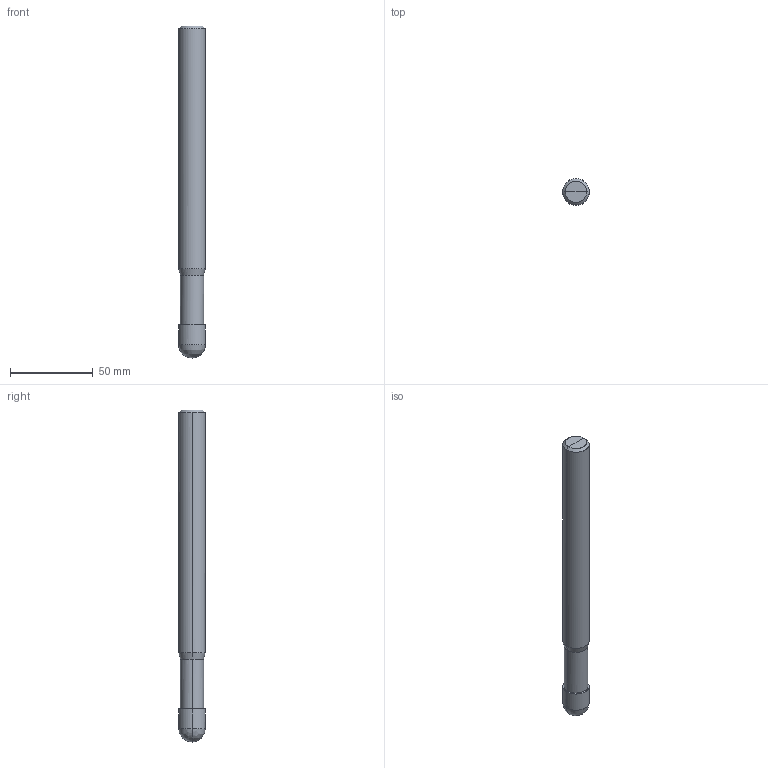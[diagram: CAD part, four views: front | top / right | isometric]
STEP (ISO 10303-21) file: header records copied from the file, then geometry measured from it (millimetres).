
FILE_DESCRIPTION(/* description */ (''),/* implementation_level */ '2;1');
FILE_NAME(/*name*/ '2142-16',/*time_stamp*/'2021-4-22T13:9:48',/*author*/ ('ISBE GmbH'),/*organization*/ ('ISBE GmbH'),/*preprocessor_version*/ 'STEP IO v1.0',/*originating_system*/ '',/*authorisation*/ '');
FILE_SCHEMA (('AUTOMOTIVE_DESIGN'));
Length unit declared in the file: millimetre
Products named in the file (1): Document
Bounding box: 16 x 15.98 x 200 mm (x, y, z)
Surface area: 10379.3 mm2 (no closed solid volume)
Topology: 0 solids, 18 shells, 18 faces, 74 edges, 68 vertices
Faces by surface type: bspline 18
Entity records: 763 total; most frequent: CARTESIAN_POINT 438, VERTEX_POINT 64, EDGE_CURVE 64, ORIENTED_EDGE 64, EDGE_LOOP 18, FACE_OUTER_BOUND 18, ADVANCED_FACE 18, DIRECTION 16
